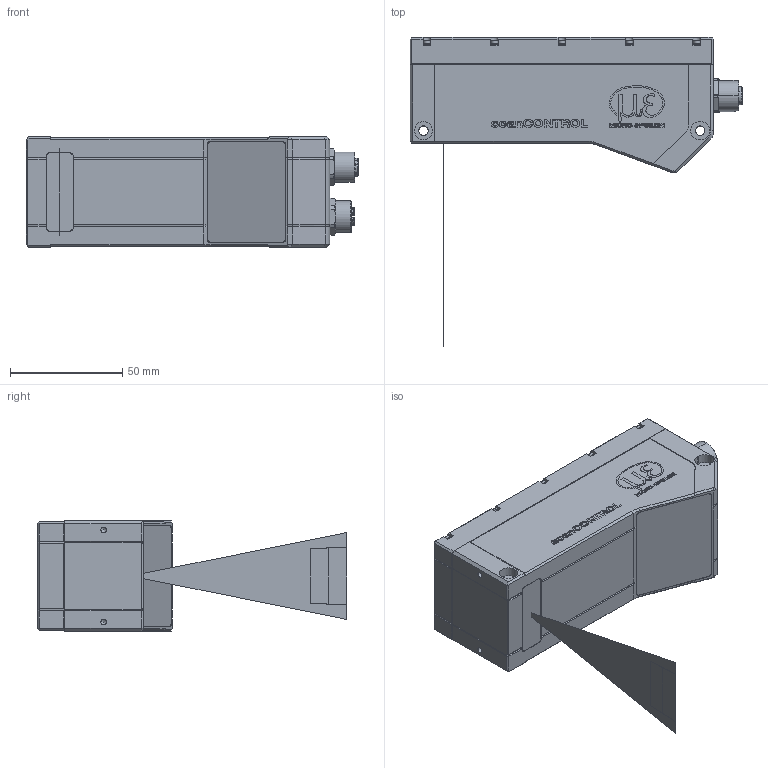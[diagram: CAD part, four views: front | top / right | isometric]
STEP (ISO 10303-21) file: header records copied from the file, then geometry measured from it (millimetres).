
FILE_DESCRIPTION (( 'STEP AP214' ), '1' );
FILE_NAME ('LLT8500-MB25_mit Messbereichsfeld.step', '2025-04-16T07:08:50', ( '' ), ( '' ), 'SwSTEP 2.0', 'SolidWorks 2022', '' );
FILE_SCHEMA (( 'AUTOMOTIVE_DESIGN' ));
Length unit declared in the file: millimetre
Products named in the file (1): LLT8500-MB25_mit Messbereichsfeld
Bounding box: 147.6 x 137.5 x 49 mm (x, y, z)
Volume: 323821.1 mm3; surface area: 40460.8 mm2
Topology: 2 solids, 15 shells, 2715 faces, 7047 edges, 4544 vertices
Faces by surface type: plane 1364, bspline 731, cylinder 382, cone 174, torus 64
Full cylindrical faces by diameter (mm): 0.72 x19, 1.6 x4, 2.2 x15, 2.5 x2, 2.921 x10, 3 x14, 4.2 x2, 8 x2, 17 x2
Entity records: 134676 total; most frequent: CARTESIAN_POINT 44394, ORIENTED_EDGE 13606, DIRECTION 10150, EDGE_CURVE 6803, VERTEX_POINT 4464, LINE 4018, VECTOR 4018, AXIS2_PLACEMENT_3D 3066
